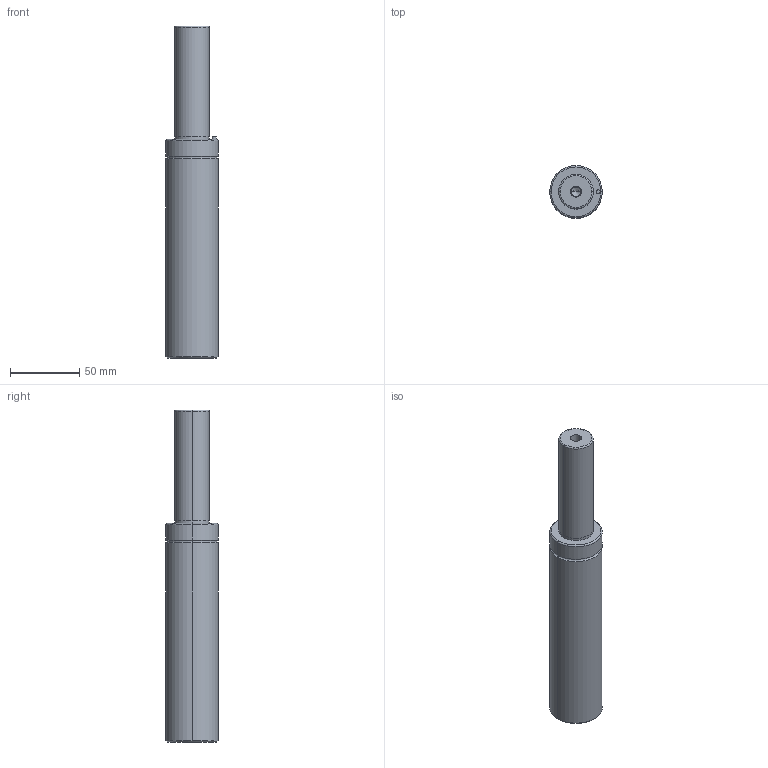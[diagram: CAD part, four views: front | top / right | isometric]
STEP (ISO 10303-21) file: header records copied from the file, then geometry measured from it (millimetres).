
FILE_DESCRIPTION(/* description */ (''),/* implementation_level */ '2;1');
FILE_NAME(/* name */ '3d_gsm38-80_03906_r00.stp',/* time_stamp */ '2011-01-10T14:15:15+09:00',/* author */ ('MISUMI'),/* organization */ (''),/* preprocessor_version */ 'ST-DEVELOPER v11',/* originating_system */ 'UGS - NX 5.0',/* authorisation */ '');
FILE_SCHEMA (('CONFIG_CONTROL_DESIGN'));
Length unit declared in the file: millimetre
Products named in the file (1): 3d_gsm38-80_03906_r00
Bounding box: 38 x 38 x 240 mm (x, y, z)
Volume: 217386.6 mm3; surface area: 28547.9 mm2
Topology: 1 solids, 1 shells, 50 faces, 106 edges, 60 vertices
Faces by surface type: cylinder 26, cone 10, plane 8, torus 6
Entity records: 1382 total; most frequent: DIRECTION 262, CARTESIAN_POINT 209, ORIENTED_EDGE 196, AXIS2_PLACEMENT_3D 113, EDGE_CURVE 98, CIRCLE 62, EDGE_LOOP 60, VERTEX_POINT 60
